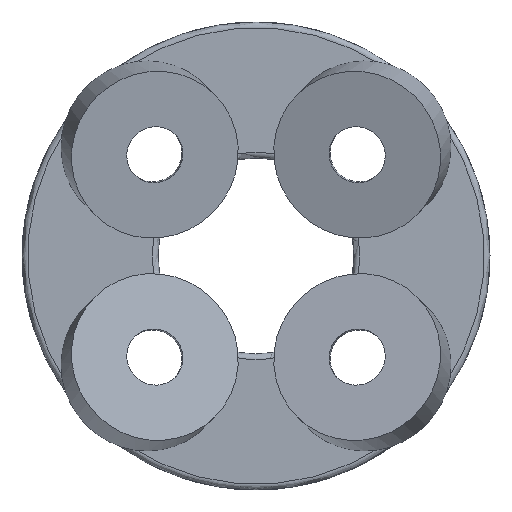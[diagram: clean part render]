
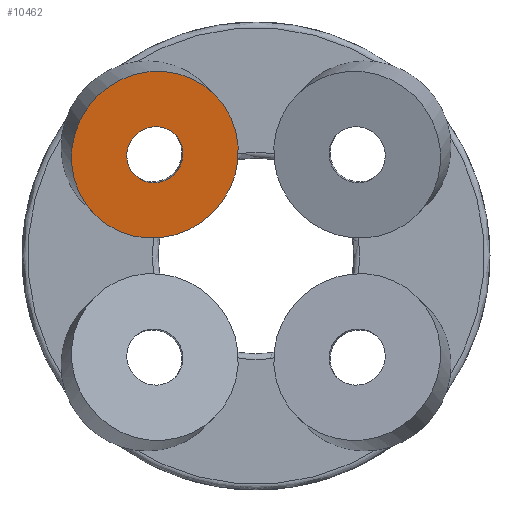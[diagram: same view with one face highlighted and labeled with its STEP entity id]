
A CAD part, top view. The second image highlights one B-rep face of the part: STEP entity #10462.
In plain terms, the highlighted planar face has unit normal (0.183, -0.183, 0.966).
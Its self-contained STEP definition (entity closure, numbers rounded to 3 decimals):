
#8846 = CYLINDRICAL_SURFACE('',#8847,5.2);
#8847 = AXIS2_PLACEMENT_3D('',#8848,#8849,#8850);
#8848 = CARTESIAN_POINT('',(-6.834,6.834,
    2.303));
#8849 = DIRECTION('',(-0.183,0.183,-0.966));
#8850 = DIRECTION('',(-0.683,0.683,0.259));
#10392 = CYLINDRICAL_SURFACE('',#10393,1.75);
#10393 = AXIS2_PLACEMENT_3D('',#10394,#10395,#10396);
#10394 = CARTESIAN_POINT('',(-10.677,10.677,
    -17.981));
#10395 = DIRECTION('',(-0.183,0.183,-0.966));
#10396 = DIRECTION('',(-0.683,0.683,0.259));
#10408 = VERTEX_POINT('',#10409);
#10409 = CARTESIAN_POINT('',(-7.394,7.394,
    6.108));
#10432 = EDGE_CURVE('',#10408,#10408,#10433,.T.);
#10433 = SURFACE_CURVE('',#10434,(#10439,#10446),.PCURVE_S1.);
#10434 = CIRCLE('',#10435,1.75);
#10435 = AXIS2_PLACEMENT_3D('',#10436,#10437,#10438);
#10436 = CARTESIAN_POINT('',(-6.199,6.199,5.655
    ));
#10437 = DIRECTION('',(-0.183,0.183,-0.966));
#10438 = DIRECTION('',(-0.683,0.683,0.259));
#10439 = PCURVE('',#10392,#10440);
#10440 = DEFINITIONAL_REPRESENTATION('',(#10441),#10445);
#10441 = LINE('',#10442,#10443);
#10442 = CARTESIAN_POINT('',(-6.283,-24.47));
#10443 = VECTOR('',#10444,1.);
#10444 = DIRECTION('',(1.,-0.));
#10445 = ( GEOMETRIC_REPRESENTATION_CONTEXT(2) 
PARAMETRIC_REPRESENTATION_CONTEXT() REPRESENTATION_CONTEXT('2D SPACE',''
  ) );
#10446 = PCURVE('',#10447,#10452);
#10447 = PLANE('',#10448);
#10448 = AXIS2_PLACEMENT_3D('',#10449,#10450,#10451);
#10449 = CARTESIAN_POINT('',(-6.199,6.199,5.655
    ));
#10450 = DIRECTION('',(0.183,-0.183,0.966));
#10451 = DIRECTION('',(-0.683,0.683,0.259));
#10452 = DEFINITIONAL_REPRESENTATION('',(#10453),#10461);
#10453 = ( BOUNDED_CURVE() B_SPLINE_CURVE(2,(#10454,#10455,#10456,#10457
    ,#10458,#10459,#10460),.UNSPECIFIED.,.T.,.F.) 
B_SPLINE_CURVE_WITH_KNOTS((1,2,2,2,2,1),(-2.094,0.,
    2.094,4.189,6.283,8.378),
.UNSPECIFIED.) CURVE() GEOMETRIC_REPRESENTATION_ITEM() 
RATIONAL_B_SPLINE_CURVE((1.,0.5,1.,0.5,1.,0.5,1.)) REPRESENTATION_ITEM(
  '') );
#10454 = CARTESIAN_POINT('',(1.75,0.));
#10455 = CARTESIAN_POINT('',(1.75,-3.031));
#10456 = CARTESIAN_POINT('',(-0.875,-1.516));
#10457 = CARTESIAN_POINT('',(-3.5,0.));
#10458 = CARTESIAN_POINT('',(-0.875,1.516));
#10459 = CARTESIAN_POINT('',(1.75,3.031));
#10460 = CARTESIAN_POINT('',(1.75,0.));
#10461 = ( GEOMETRIC_REPRESENTATION_CONTEXT(2) 
PARAMETRIC_REPRESENTATION_CONTEXT() REPRESENTATION_CONTEXT('2D SPACE',''
  ) );
#10462 = ADVANCED_FACE('',(#10463,#10489),#10447,.T.);
#10463 = FACE_BOUND('',#10464,.T.);
#10464 = EDGE_LOOP('',(#10465));
#10465 = ORIENTED_EDGE('',*,*,#10466,.T.);
#10466 = EDGE_CURVE('',#10467,#10467,#10469,.T.);
#10467 = VERTEX_POINT('',#10468);
#10468 = CARTESIAN_POINT('',(-9.75,9.75,
    7.001));
#10469 = SURFACE_CURVE('',#10470,(#10475,#10482),.PCURVE_S1.);
#10470 = CIRCLE('',#10471,5.2);
#10471 = AXIS2_PLACEMENT_3D('',#10472,#10473,#10474);
#10472 = CARTESIAN_POINT('',(-6.199,6.199,5.655
    ));
#10473 = DIRECTION('',(0.183,-0.183,0.966));
#10474 = DIRECTION('',(-0.683,0.683,0.259));
#10475 = PCURVE('',#10447,#10476);
#10476 = DEFINITIONAL_REPRESENTATION('',(#10477),#10481);
#10477 = CIRCLE('',#10478,5.2);
#10478 = AXIS2_PLACEMENT_2D('',#10479,#10480);
#10479 = CARTESIAN_POINT('',(0.,0.));
#10480 = DIRECTION('',(1.,0.));
#10481 = ( GEOMETRIC_REPRESENTATION_CONTEXT(2) 
PARAMETRIC_REPRESENTATION_CONTEXT() REPRESENTATION_CONTEXT('2D SPACE',''
  ) );
#10482 = PCURVE('',#8846,#10483);
#10483 = DEFINITIONAL_REPRESENTATION('',(#10484),#10488);
#10484 = LINE('',#10485,#10486);
#10485 = CARTESIAN_POINT('',(-0.,-3.47));
#10486 = VECTOR('',#10487,1.);
#10487 = DIRECTION('',(-1.,0.));
#10488 = ( GEOMETRIC_REPRESENTATION_CONTEXT(2) 
PARAMETRIC_REPRESENTATION_CONTEXT() REPRESENTATION_CONTEXT('2D SPACE',''
  ) );
#10489 = FACE_BOUND('',#10490,.T.);
#10490 = EDGE_LOOP('',(#10491));
#10491 = ORIENTED_EDGE('',*,*,#10432,.T.);
